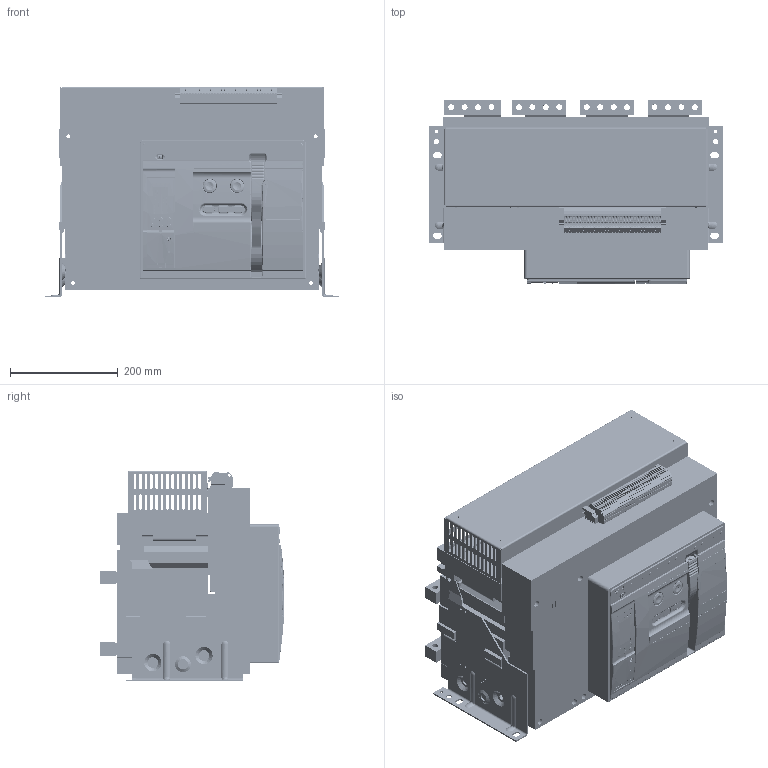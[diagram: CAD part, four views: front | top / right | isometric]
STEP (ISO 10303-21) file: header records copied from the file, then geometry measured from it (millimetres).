
FILE_DESCRIPTION(/* description */ (''),/* implementation_level */ '2;1');
FILE_NAME(/* name */ 'C:/Users/carlos.gonzalez/Documents/ADRIAN_TEMP_DRAWING/Ex9A32_4P_3200_F_PB_Drawing.step',/* time_stamp */ '2021-10-14T13:05:10+02:00',/* author */ (''),/* organization */ (''),/* preprocessor_version */ 'ST-DEVELOPER v18.1',/* originating_system */ 'Autodesk Translation Framework v10.10.0.1391',/* authorisation */ '');
FILE_SCHEMA (('AUTOMOTIVE_DESIGN { 1 0 10303 214 3 1 1 }'));
Products named in the file (41): Ex9A32_4P_3200_F; Ex9A32_4P_3200_F_1; Auxiliary terminals; JIEXIANDUANZI-35_ASM; 8260A0306112; 3044526_UT25_TWIN_BU; 0800886_E-NS-35-N; 081808_UC_TM_2_5; Cover; 5300A1526114_ASM; 8300A0101127_34; 8235A0101009_2; 8253A0101002_7; 8320A0101121-0814_3; 8860A0724001_4; 8ZTD_282_1203_AF1_6; 8ZTD_282_1203_AF2_6; 8253A0101107-1_5; 8253A0101106-1_5; 8860A1424194-1_1; 8282A0820014; 8253A0101010; 8253A0101108-1; Internal parts; 4000-JIZUO-4P; 8ZTD_123_166_2; 8060A0306108; 4000-DIBAN-4P; 8300A0306008; 8ZTD_123_167_2; 8300A0101130-; 8060A0306109; Main terminals; 8580A0412009; 8580A0412010; 8580A0412011; Smart unit SU; 8005A0101008; 8320A0101004; 8860A1424009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
Assembly tree (147 placements, depth 5):
  Ex9A32_4P_3200_F
    Ex9A32_4P_3200_F_1
      Auxiliary terminals
        JIEXIANDUANZI-35_ASM
          8260A0306112
          3044526_UT25_TWIN_BU  x35
          0800886_E-NS-35-N  x2
          081808_UC_TM_2_5  x68
      Cover
        5300A1526114_ASM
          8300A0101127_34
          8235A0101009_2
          8253A0101002_7
          8320A0101121-0814_3
          8860A0724001_4
          8ZTD_282_1203_AF1_6
          8ZTD_282_1203_AF2_6
          8253A0101107-1_5
          8253A0101106-1_5
          8860A1424194-1_1
          8282A0820014
        8253A0101010
        8253A0101108-1
      Internal parts
        4000-JIZUO-4P
        8ZTD_123_166_2
        8060A0306108
        4000-DIBAN-4P
        8300A0306008
        8ZTD_123_167_2
        8300A0101130-
        8060A0306109
      Main terminals
        8580A0412009  x2
        8580A0412011  x4
        8580A0412010  x2
      Smart unit SU
        8005A0101008
        8320A0101004
        8860A1424009
        5043A0101001
Bounding box: 545 x 343.49 x 392 mm (x, y, z)
Volume: 25494089 mm3; surface area: 2976038.9 mm2
Topology: 139 solids, 164 shells, 11087 faces, 31247 edges, 20591 vertices
Faces by surface type: plane 6871, cylinder 3453, bspline 390, torus 238, sphere 72, cone 63
Full cylindrical faces by diameter (mm): 2 x7, 2.1 x2, 2.5 x3, 2.6 x2, 3 x11, 3.5 x11, 4 x12, 4.2 x4, 4.3 x1, 4.5 x3, 5 x16, 5.008 x1, 6 x9, 6.1 x1, 6.5 x3, 7 x8, 8 x4, 8.2 x8, 8.3 x2, 8.5 x32, 9 x2, 10 x6, 11 x32, 12 x8, 12.5 x1, 14 x1, 15 x1, 16 x1, 17 x1, 18 x2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
Entity records: 217384 total; most frequent: CARTESIAN_POINT 85147, ORIENTED_EDGE 27858, DIRECTION 25776, EDGE_CURVE 13954, LINE 9656, VECTOR 9656, VERTEX_POINT 9085, AXIS2_PLACEMENT_3D 8060
